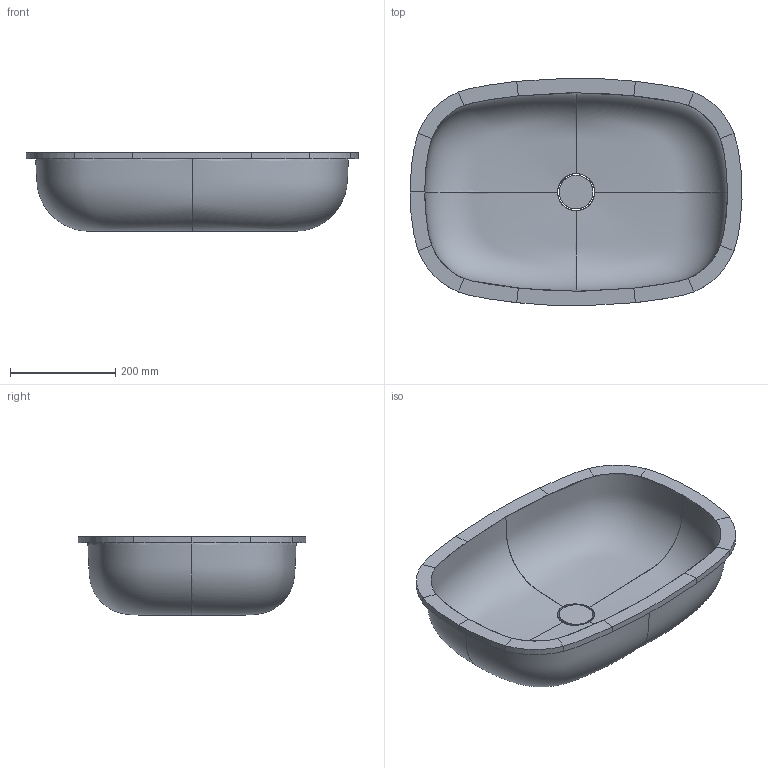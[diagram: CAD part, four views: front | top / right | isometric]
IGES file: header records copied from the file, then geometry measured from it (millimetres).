
Global section: file name: \\Archi-NAS\Comune\X GIOVANNI\LAVABI\DA INCASSO\SWEET INCA\3D\SWEET INCA.igs; native system: Rhinoceros ( Feb 23 2021 ); preprocessor: Trout Lake IGES 012 Feb 23 2021; date: 230525.130046; units: millimetre
Bounding box: 629.7 x 431.74 x 148.97 mm (x, y, z)
Surface area: 806072.2 mm2 (no closed solid volume)
Topology: 0 solids, 0 shells, 54 faces, 1042 edges, 1041 vertices
Faces by surface type: bspline 54
